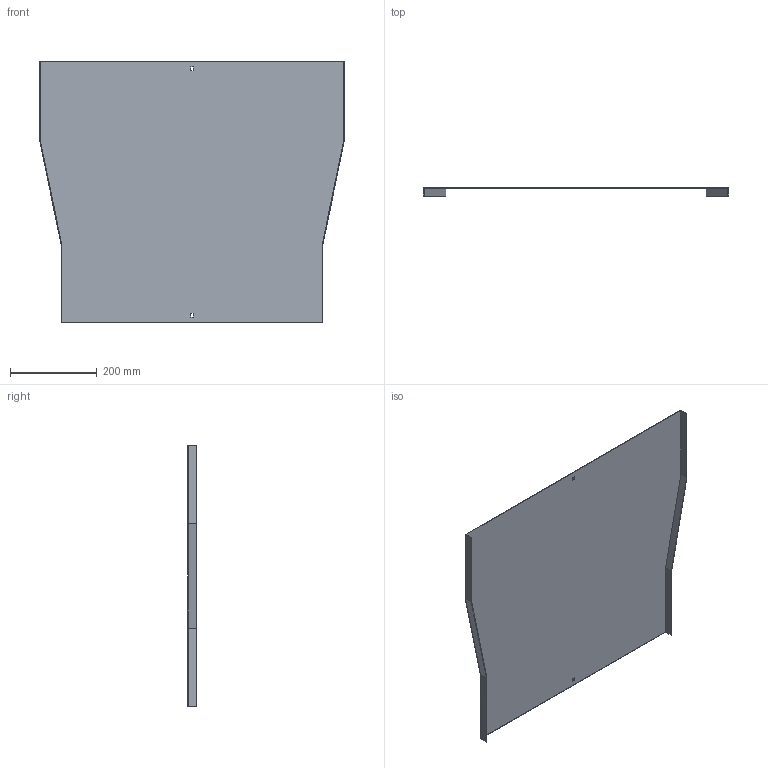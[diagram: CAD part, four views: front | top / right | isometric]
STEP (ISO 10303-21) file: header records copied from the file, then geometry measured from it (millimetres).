
FILE_DESCRIPTION (( 'STEP AP214' ), '1' );
FILE_NAME ('B2X20N6R700X.step', '2025-09-02T15:44:14', ( '' ), ( '' ), 'SwSTEP 2.0', 'SolidWorks 2023', '' );
FILE_SCHEMA (( 'AUTOMOTIVE_DESIGN' ));
Length unit declared in the file: millimetre
Products named in the file (1): B2X20N6R700X
Bounding box: 703 x 20 x 600 mm (x, y, z)
Volume: 621110.5 mm3; surface area: 832125.8 mm2
Topology: 1 solids, 1 shells, 26 faces, 72 edges, 48 vertices
Faces by surface type: plane 26
Entity records: 847 total; most frequent: CARTESIAN_POINT 147, ORIENTED_EDGE 144, DIRECTION 126, LINE 72, VECTOR 72, EDGE_CURVE 72, VERTEX_POINT 48, EDGE_LOOP 30
